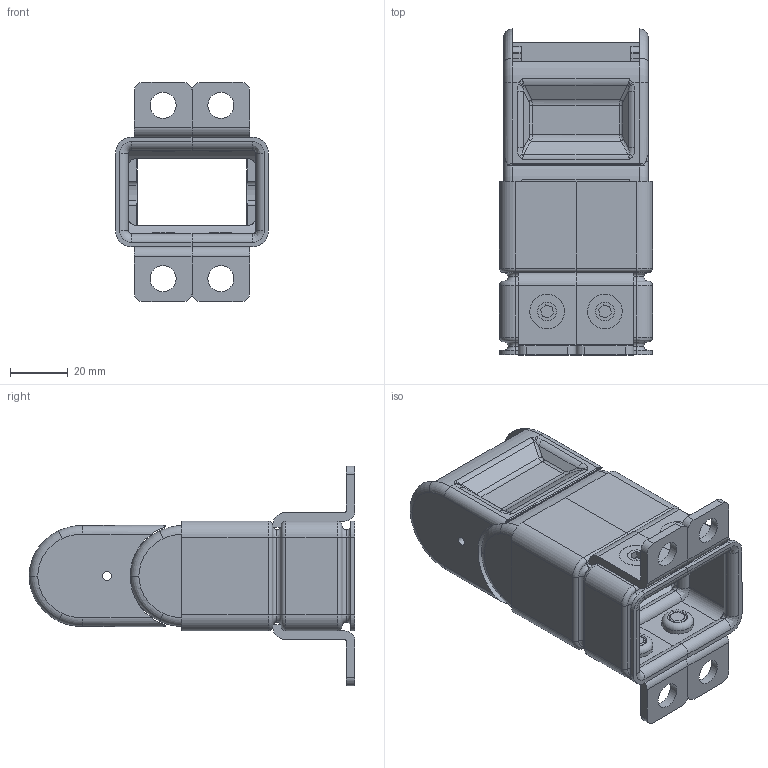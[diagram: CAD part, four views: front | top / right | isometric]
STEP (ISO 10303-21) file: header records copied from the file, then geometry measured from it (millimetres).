
FILE_DESCRIPTION((''),'2;1');
FILE_NAME('E:\Uebbing\temp\PFR 122\PFR 122 Anschluss A.stp','2010-08-16T11:14:59',('UebbingXP'),(''),'Autodesk Inventor 10','Autodesk Inventor 10','');
FILE_SCHEMA(('AUTOMOTIVE_DESIGN { 1 0 10303 214 1 1 1 1 }'));
Length unit declared in the file: millimetre
Products named in the file (6): PFR 122 Anschluss A; PFR 122 H Normalanschluss; Rändelmutter M6 flach; Anschlusswinkel; Imbusschraube M6x5 Senkkopf; PFR122-75 gesägt 
Assembly tree (15 placements, depth 2):
  PFR 122 Anschluss A
    PFR 122 H Normalanschluss
    Rändelmutter M6 flach  x4
    Anschlusswinkel  x4
    Imbusschraube M6x5 Senkkopf  x4
    PFR122-75 gesägt   x2
Bounding box: 53 x 112.84 x 76 mm (x, y, z)
Volume: 66720.1 mm3; surface area: 60771.6 mm2
Topology: 15 solids, 15 shells, 744 faces, 1778 edges, 1056 vertices
Faces by surface type: bspline 295, plane 208, cylinder 191, torus 34, cone 16
Full cylindrical faces by diameter (mm): 6 x8, 6.5 x4, 9 x8, 9.2 x4, 11 x4, 12 x4
Entity records: 18244 total; most frequent: CARTESIAN_POINT 8520, ORIENTED_EDGE 2032, DIRECTION 1896, EDGE_CURVE 1016, AXIS2_PLACEMENT_3D 687, VERTEX_POINT 600, VECTOR 522, LINE 522
